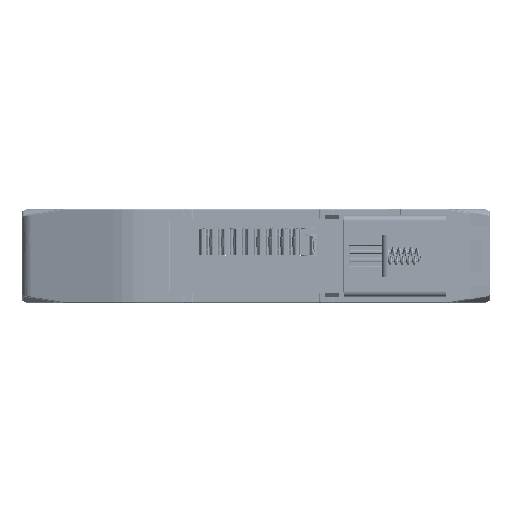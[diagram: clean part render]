
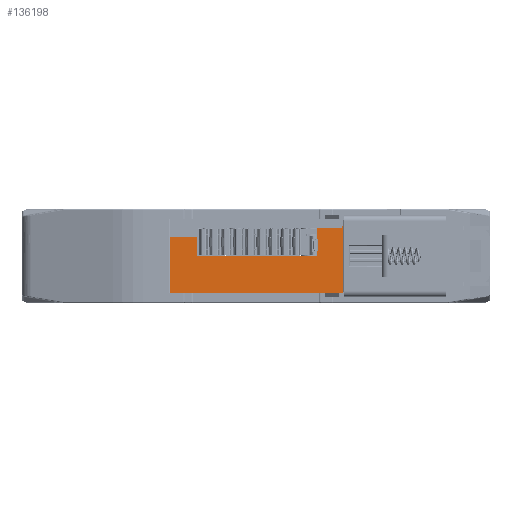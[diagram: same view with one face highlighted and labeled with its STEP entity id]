
A CAD part, front view. The second image highlights one B-rep face of the part: STEP entity #136198.
In plain terms, the highlighted planar face has unit normal (0, -1, 0).
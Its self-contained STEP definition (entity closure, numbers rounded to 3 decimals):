
#24673=DIRECTION('',(-1.,0.,0.));
#24674=VECTOR('',#24673,5.9);
#24675=CARTESIAN_POINT('',(-12.5,-83.9,-4.8));
#24676=LINE('',#24675,#24674);
#50286=DIRECTION('',(0.,0.,-1.));
#50287=VECTOR('',#50286,15.65);
#50288=CARTESIAN_POINT('',(18.6,-83.9,-1.15));
#50289=LINE('',#50288,#50287);
#50290=DIRECTION('',(0.,0.,-1.));
#50291=VECTOR('',#50290,12.);
#50292=CARTESIAN_POINT('',(-18.4,-83.9,-4.8));
#50293=LINE('',#50292,#50291);
#50294=DIRECTION('',(0.,0.,-1.));
#50295=VECTOR('',#50294,4.);
#50296=CARTESIAN_POINT('',(-12.5,-83.9,-4.8));
#50297=LINE('',#50296,#50295);
#50298=DIRECTION('',(1.,0.,0.));
#50299=VECTOR('',#50298,25.5);
#50300=CARTESIAN_POINT('',(-12.5,-83.9,-8.8));
#50301=LINE('',#50300,#50299);
#50302=DIRECTION('',(0.,0.,1.));
#50303=VECTOR('',#50302,5.95);
#50304=CARTESIAN_POINT('',(13.,-83.9,-8.8));
#50305=LINE('',#50304,#50303);
#50310=DIRECTION('',(1.,0.,0.));
#50311=VECTOR('',#50310,5.451);
#50312=CARTESIAN_POINT('',(13.,-83.9,-2.85));
#50313=LINE('',#50312,#50311);
#50322=DIRECTION('',(-0.087,0.,-0.996));
#50323=VECTOR('',#50322,1.706);
#50324=CARTESIAN_POINT('',(18.6,-83.9,-1.15));
#50325=LINE('',#50324,#50323);
#51446=DIRECTION('',(-1.,0.,0.));
#51447=VECTOR('',#51446,37.);
#51448=CARTESIAN_POINT('',(18.6,-83.9,-16.8));
#51449=LINE('',#51448,#51447);
#82115=CARTESIAN_POINT('',(18.6,-83.9,-16.8));
#82116=VERTEX_POINT('',#82115);
#82287=CARTESIAN_POINT('',(-12.5,-83.9,-4.8));
#82288=VERTEX_POINT('',#82287);
#82289=CARTESIAN_POINT('',(-12.5,-83.9,-8.8));
#82290=CARTESIAN_POINT('',(13.,-83.9,-8.8));
#82291=VERTEX_POINT('',#82289);
#82292=VERTEX_POINT('',#82290);
#89814=CARTESIAN_POINT('',(18.6,-83.9,-1.15));
#89815=VERTEX_POINT('',#89814);
#89835=CARTESIAN_POINT('',(13.,-83.9,-2.85));
#89837=VERTEX_POINT('',#89835);
#89838=CARTESIAN_POINT('',(18.451,-83.9,-2.85));
#89840=VERTEX_POINT('',#89838);
#89842=CARTESIAN_POINT('',(-18.4,-83.9,-16.8));
#89844=VERTEX_POINT('',#89842);
#89848=CARTESIAN_POINT('',(-18.4,-83.9,-4.8));
#89849=VERTEX_POINT('',#89848);
#136175=CARTESIAN_POINT('',(18.6,-83.9,-4.8));
#136176=DIRECTION('',(0.,1.,0.));
#136177=DIRECTION('',(-1.,0.,0.));
#136178=AXIS2_PLACEMENT_3D('',#136175,#136176,#136177);
#136179=PLANE('',#136178);
#136181=ORIENTED_EDGE('',*,*,#136180,.T.);
#136183=ORIENTED_EDGE('',*,*,#136182,.F.);
#136184=ORIENTED_EDGE('',*,*,#136161,.T.);
#136186=ORIENTED_EDGE('',*,*,#136185,.T.);
#136188=ORIENTED_EDGE('',*,*,#136187,.F.);
#136189=ORIENTED_EDGE('',*,*,#101149,.F.);
#136191=ORIENTED_EDGE('',*,*,#136190,.T.);
#136193=ORIENTED_EDGE('',*,*,#136192,.T.);
#136195=ORIENTED_EDGE('',*,*,#136194,.T.);
#136196=EDGE_LOOP('',(#136181,#136183,#136184,#136186,#136188,#136189,#136191,
#136193,#136195));
#136197=FACE_OUTER_BOUND('',#136196,.F.);
#136198=ADVANCED_FACE('',(#136197),#136179,.F.);
#101149=EDGE_CURVE('',#82288,#89849,#24676,.T.);
#136161=EDGE_CURVE('',#89815,#82116,#50289,.T.);
#136180=EDGE_CURVE('',#89837,#89840,#50313,.T.);
#136182=EDGE_CURVE('',#89815,#89840,#50325,.T.);
#136185=EDGE_CURVE('',#82116,#89844,#51449,.T.);
#136187=EDGE_CURVE('',#89849,#89844,#50293,.T.);
#136190=EDGE_CURVE('',#82288,#82291,#50297,.T.);
#136192=EDGE_CURVE('',#82291,#82292,#50301,.T.);
#136194=EDGE_CURVE('',#82292,#89837,#50305,.T.);
